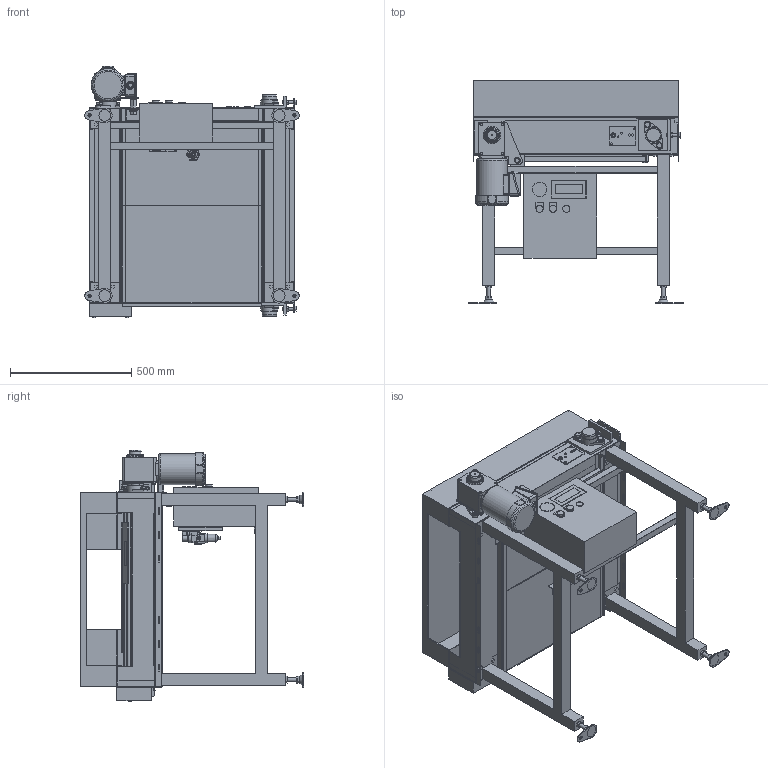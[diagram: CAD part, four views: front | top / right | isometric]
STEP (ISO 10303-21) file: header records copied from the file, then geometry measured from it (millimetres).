
FILE_DESCRIPTION (( 'STEP AP214' ), '1' );
FILE_NAME ('SLS-H-2-250-300-R.STEP', '2023-04-20T04:58:02', ( '' ), ( '' ), 'SwSTEP 2.0', 'SolidWorks 2017', '' );
FILE_SCHEMA (( 'AUTOMOTIVE_DESIGN' ));
Length unit declared in the file: millimetre
Products named in the file (1): SLS-H-2-250-300-R
Bounding box: 884 x 920.6 x 1039.5 mm (x, y, z)
Volume: 52122141.7 mm3; surface area: 10133324.9 mm2
Topology: 89 solids, 89 shells, 3223 faces, 8561 edges, 5550 vertices
Faces by surface type: plane 2546, cylinder 505, cone 142, bspline 15, torus 11, sphere 4
Full cylindrical faces by diameter (mm): 2.459 x2, 3.2 x4, 4.386 x2, 6 x3, 6.5 x2, 6.8 x3, 7 x4, 7.9 x4, 8 x6, 8.376 x4, 8.5 x6, 9 x1, 9.7 x3, 9.9 x1, 10 x1, 10.5 x4, 11 x5, 11.8 x4, 12 x2, 12.3 x1, 13 x8, 13.8 x1, 14 x10, 15 x1, 15.4 x1, 16 x16, 18 x1, 19 x1, 20 x1, 21 x6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
Entity records: 135491 total; most frequent: CARTESIAN_POINT 19383, ORIENTED_EDGE 16588, DIRECTION 15703, EDGE_CURVE 8294, LINE 6775, VECTOR 6775, VERTEX_POINT 5490, AXIS2_PLACEMENT_3D 4464
